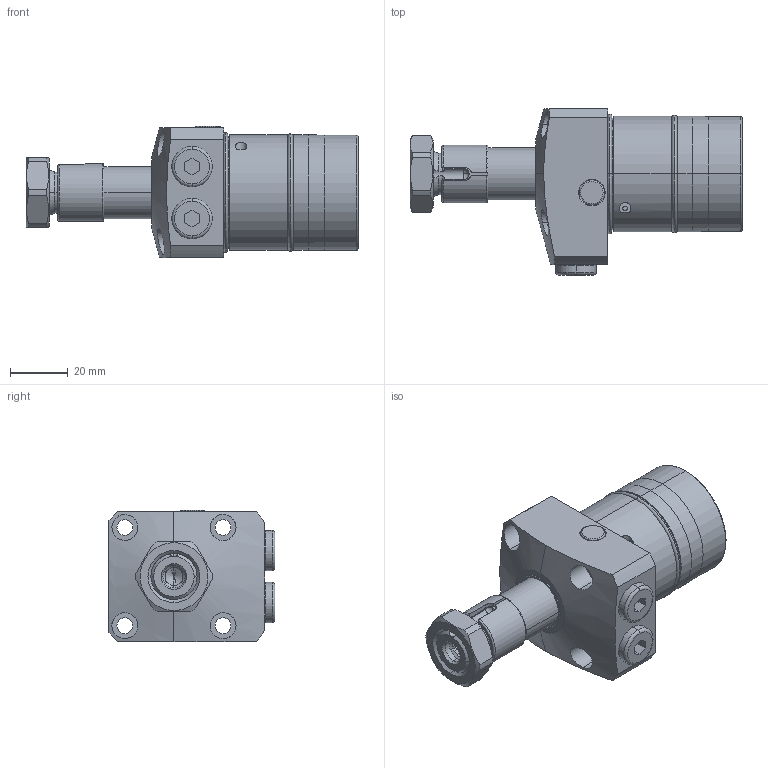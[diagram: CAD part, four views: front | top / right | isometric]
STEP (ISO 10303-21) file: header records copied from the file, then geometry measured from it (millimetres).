
FILE_DESCRIPTION(/* description */ (''),/* implementation_level */ '2;1');
FILE_NAME(/* name */ 'KTRW40-RH.stp',/* time_stamp */ '2022-11-18T11:01:14+08:00',/* author */ (''),/* organization */ (''),/* preprocessor_version */ 'ST-DEVELOPER v16.7',/* originating_system */ 'SIEMENS PLM Software NX 12.0',/* authorisation */ '');
FILE_SCHEMA (('AP203_CONFIGURATION_CONTROLLED_3D_DESIGN_OF_MECHANICAL_PARTS_AND_ASSEMBLIES_MIM_LF { 1 0 10303 403 2 1 2}'));
Length unit declared in the file: millimetre
Products named in the file (8): KTRW40-RH-04; KTRW40-RH-07; KTRW40-RH-01; KTRW40-RH-05; KTRW40-RH-06; KTRW40-RH-03; KTRW40-RH-02; LHW0401-CLH_step
Assembly tree (9 placements, depth 2):
  LHW0401-CLH_step
    KTRW40-RH-02
    KTRW40-RH-03  x2
    KTRW40-RH-06  x2
    KTRW40-RH-05
    KTRW40-RH-01
    KTRW40-RH-07
    KTRW40-RH-04
Bounding box: 115 x 57.5 x 45.4 mm (x, y, z)
Volume: 119590.4 mm3; surface area: 28083.8 mm2
Topology: 10 solids, 10 shells, 351 faces, 782 edges, 477 vertices
Faces by surface type: cylinder 106, plane 98, torus 76, cone 69, sphere 2
Entity records: 9667 total; most frequent: CARTESIAN_POINT 1928, DIRECTION 1549, ORIENTED_EDGE 1324, EDGE_CURVE 662, AXIS2_PLACEMENT_3D 660, VERTEX_POINT 407, CIRCLE 355, EDGE_LOOP 335
